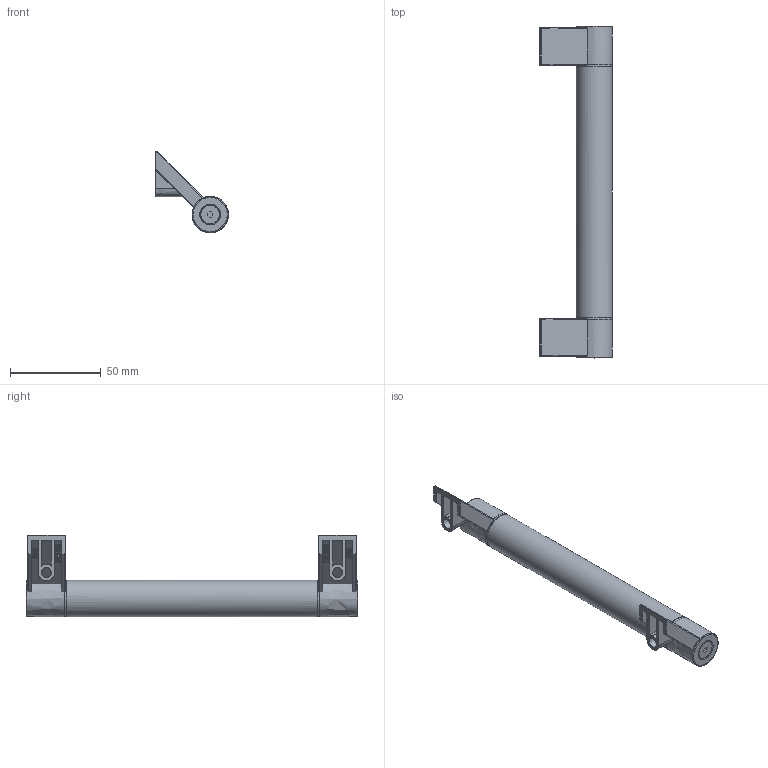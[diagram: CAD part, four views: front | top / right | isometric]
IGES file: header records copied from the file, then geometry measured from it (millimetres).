
Start section: C
Global section: file name: 8142-182.igs; native system: By Siemens PLM Incorporated; preprocessor: XPlus GENERIC/IGES 16.0.42; author: Author; organization: Title; date: 20231126.091751; units: millimetre
Bounding box: 39.99 x 182.5 x 44.74 mm (x, y, z)
Surface area: 47529.3 mm2 (no closed solid volume)
Topology: 0 solids, 0 shells, 524 faces, 3456 edges, 3456 vertices
Faces by surface type: bspline 524
